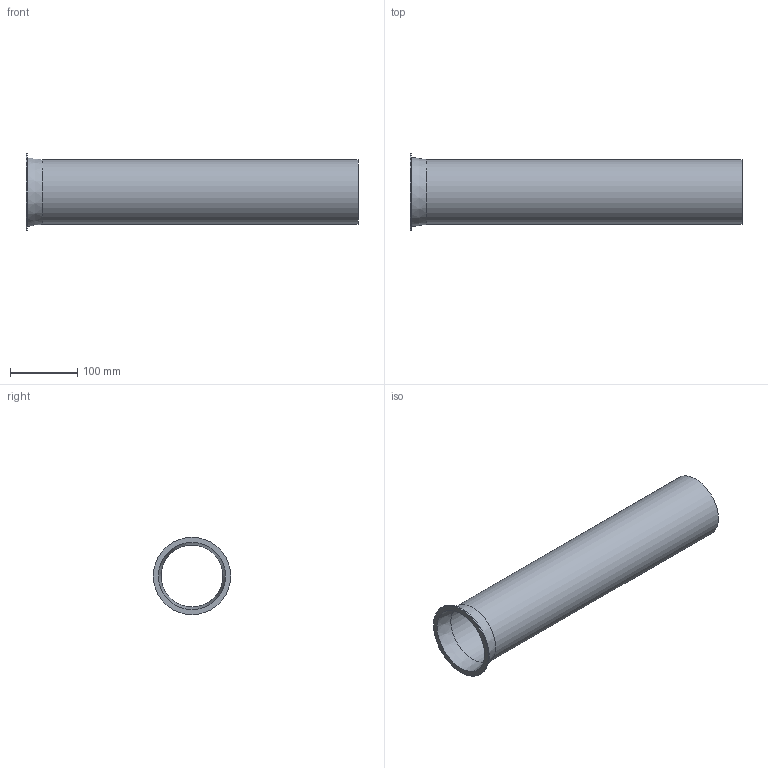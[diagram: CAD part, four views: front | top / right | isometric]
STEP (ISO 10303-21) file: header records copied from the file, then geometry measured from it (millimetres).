
FILE_DESCRIPTION((''),'2;1');
FILE_NAME('U:\Wolfgang\Marcel-3D\fertig\Kapitel 1\1011007.stp','2010-05-31T11:05:07',('TK2'),(''),'Autodesk Inventor 2010','Autodesk Inventor 2010','');
FILE_SCHEMA(('AUTOMOTIVE_DESIGN { 1 0 10303 214 1 1 1 1 }'));
Length unit declared in the file: millimetre
Products named in the file (1): 1011007
Bounding box: 493 x 115 x 115 mm (x, y, z)
Volume: 295956.2 mm3; surface area: 297258.4 mm2
Topology: 1 solids, 1 shells, 8 faces, 14 edges, 9 vertices
Faces by surface type: cylinder 3, plane 3, cone 2
Full cylindrical faces by diameter (mm): 92 x1, 96 x1, 115 x1
Entity records: 194 total; most frequent: DIRECTION 34, CARTESIAN_POINT 25, AXIS2_PLACEMENT_3D 17, ORIENTED_EDGE 16, EDGE_LOOP 16, VERTEX_POINT 8, CIRCLE 8, EDGE_CURVE 8
